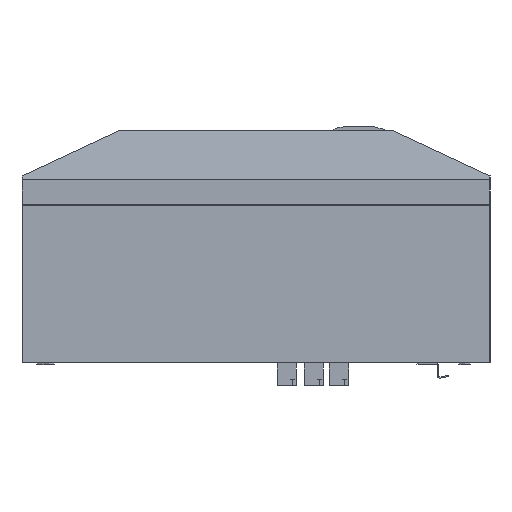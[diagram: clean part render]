
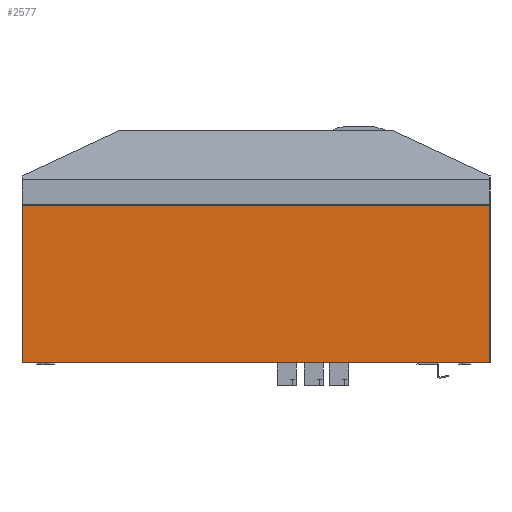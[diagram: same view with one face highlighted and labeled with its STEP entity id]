
A CAD part, left-side view. The second image highlights one B-rep face of the part: STEP entity #2577.
In plain terms, the highlighted planar face has unit normal (-1, 0, 0).
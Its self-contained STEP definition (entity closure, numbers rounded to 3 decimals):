
#83=DIRECTION('',(0.,0.,1.));
#84=VECTOR('',#83,124.);
#85=CARTESIAN_POINT('',(-260.,368.,0.));
#86=LINE('',#85,#84);
#87=DIRECTION('',(0.,-1.,0.));
#88=VECTOR('',#87,368.);
#89=CARTESIAN_POINT('',(-260.,368.,124.));
#90=LINE('',#89,#88);
#91=DIRECTION('',(0.,0.,-1.));
#92=VECTOR('',#91,124.);
#93=CARTESIAN_POINT('',(-260.,0.,124.));
#94=LINE('',#93,#92);
#795=DIRECTION('',(0.,-1.,0.));
#796=VECTOR('',#795,368.);
#797=CARTESIAN_POINT('',(-260.,368.,0.));
#798=LINE('',#797,#796);
#1955=CARTESIAN_POINT('',(-260.,0.,124.));
#1956=CARTESIAN_POINT('',(-260.,0.,0.));
#1957=VERTEX_POINT('',#1955);
#1958=VERTEX_POINT('',#1956);
#1963=CARTESIAN_POINT('',(-260.,368.,0.));
#1964=CARTESIAN_POINT('',(-260.,368.,124.));
#1965=VERTEX_POINT('',#1963);
#1966=VERTEX_POINT('',#1964);
#2563=CARTESIAN_POINT('',(-260.,184.,62.));
#2564=DIRECTION('',(1.,0.,0.));
#2565=DIRECTION('',(0.,0.,1.));
#2566=AXIS2_PLACEMENT_3D('',#2563,#2564,#2565);
#2567=PLANE('',#2566);
#2569=ORIENTED_EDGE('',*,*,#2568,.T.);
#2571=ORIENTED_EDGE('',*,*,#2570,.T.);
#2572=ORIENTED_EDGE('',*,*,#2552,.T.);
#2574=ORIENTED_EDGE('',*,*,#2573,.F.);
#2575=EDGE_LOOP('',(#2569,#2571,#2572,#2574));
#2576=FACE_OUTER_BOUND('',#2575,.F.);
#2577=ADVANCED_FACE('',(#2576),#2567,.F.);
#2552=EDGE_CURVE('',#1957,#1958,#94,.T.);
#2568=EDGE_CURVE('',#1965,#1966,#86,.T.);
#2570=EDGE_CURVE('',#1966,#1957,#90,.T.);
#2573=EDGE_CURVE('',#1965,#1958,#798,.T.);
